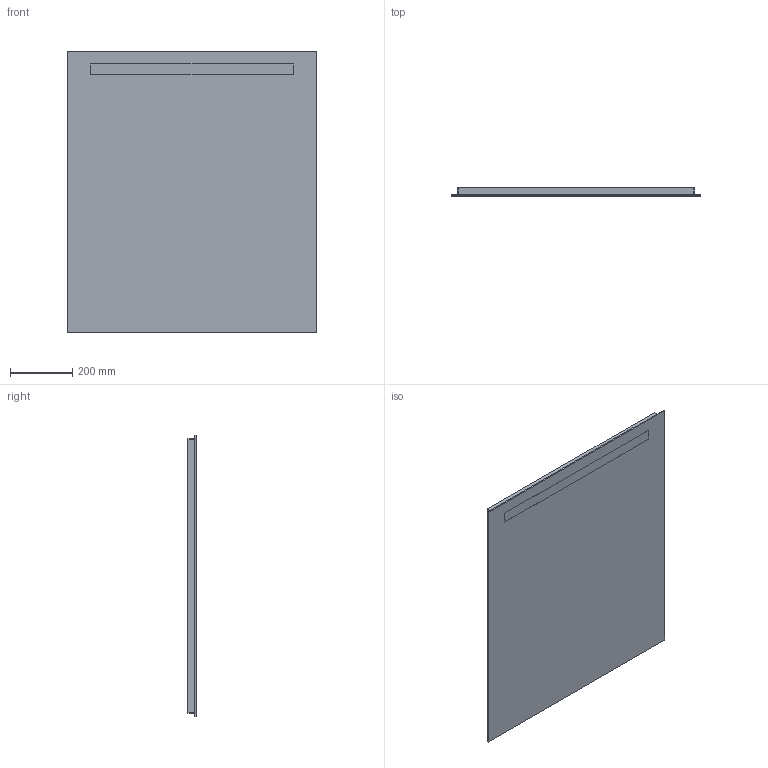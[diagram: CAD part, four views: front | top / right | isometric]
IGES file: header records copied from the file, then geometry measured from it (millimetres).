
Global section: file name: 502813; native system: Autodesk Inventor 2021; preprocessor: unknown; author: JANAN; date: 20221202.151554; units: millimetre
Bounding box: 800 x 26 x 900 mm (x, y, z)
Volume: 17589143.9 mm3; surface area: 2864373.9 mm2
Topology: 2 solids, 2 shells, 29 faces, 68 edges, 48 vertices
Faces by surface type: bspline 29
